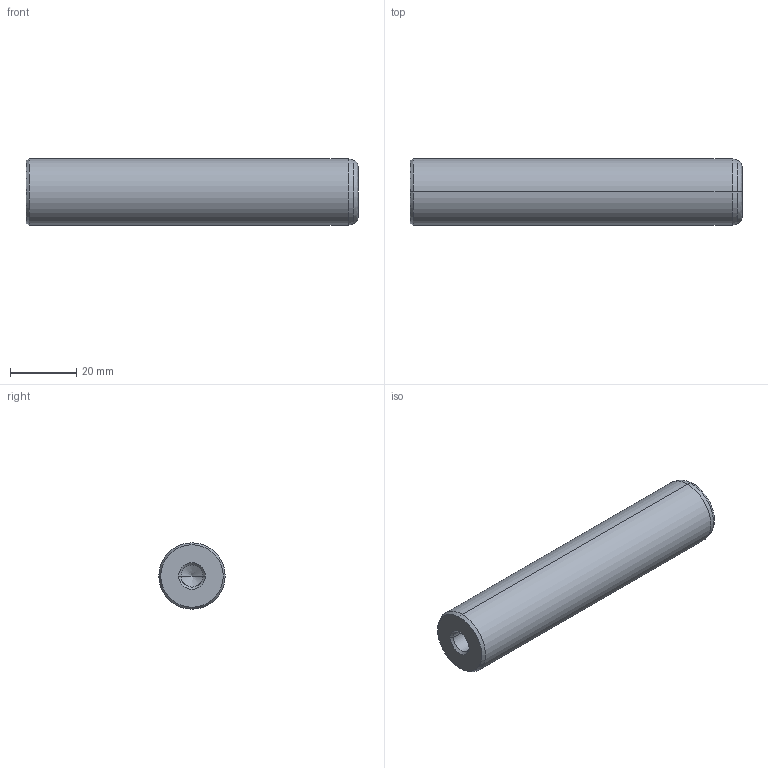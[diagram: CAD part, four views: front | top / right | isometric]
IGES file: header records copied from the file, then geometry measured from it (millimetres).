
Start section: START RECORD GO HERE.
Global section: file name: 720-20x100.igs; native system: DASSAULT SYSTEMES CATIA V5 R20 - www.3ds.com; preprocessor: CATIA Version 5 Release 20 ; author: Utente; organization: NB04-ASUS; date: 20210101.140310; units: millimetre
Bounding box: 100 x 20 x 20 mm (x, y, z)
Surface area: 7804.7 mm2 (no closed solid volume)
Topology: 0 solids, 0 shells, 22 faces, 120 edges, 116 vertices
Faces by surface type: revolution 20, plane 2
